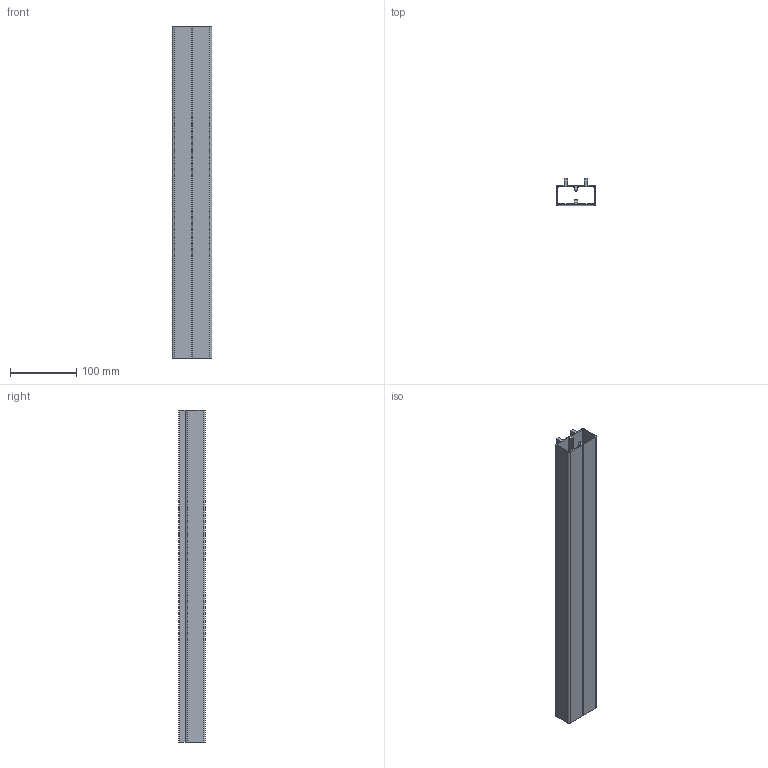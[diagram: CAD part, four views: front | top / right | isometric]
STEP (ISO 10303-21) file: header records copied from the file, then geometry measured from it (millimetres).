
FILE_DESCRIPTION (( 'STEP AP214' ), '1' );
FILE_NAME ('A40730.step', '2024-12-03T16:12:26', ( '' ), ( '' ), 'SwSTEP 2.0', 'SolidWorks 2023', '' );
FILE_SCHEMA (( 'AUTOMOTIVE_DESIGN' ));
Length unit declared in the file: millimetre
Products named in the file (1): A40730
Bounding box: 60 x 40 x 500 mm (x, y, z)
Volume: 246322.6 mm3; surface area: 197931.1 mm2
Topology: 1 solids, 1 shells, 56 faces, 162 edges, 108 vertices
Faces by surface type: plane 28, cylinder 28
Entity records: 1889 total; most frequent: DIRECTION 332, CARTESIAN_POINT 327, ORIENTED_EDGE 324, EDGE_CURVE 162, AXIS2_PLACEMENT_3D 113, VERTEX_POINT 108, LINE 106, VECTOR 106
